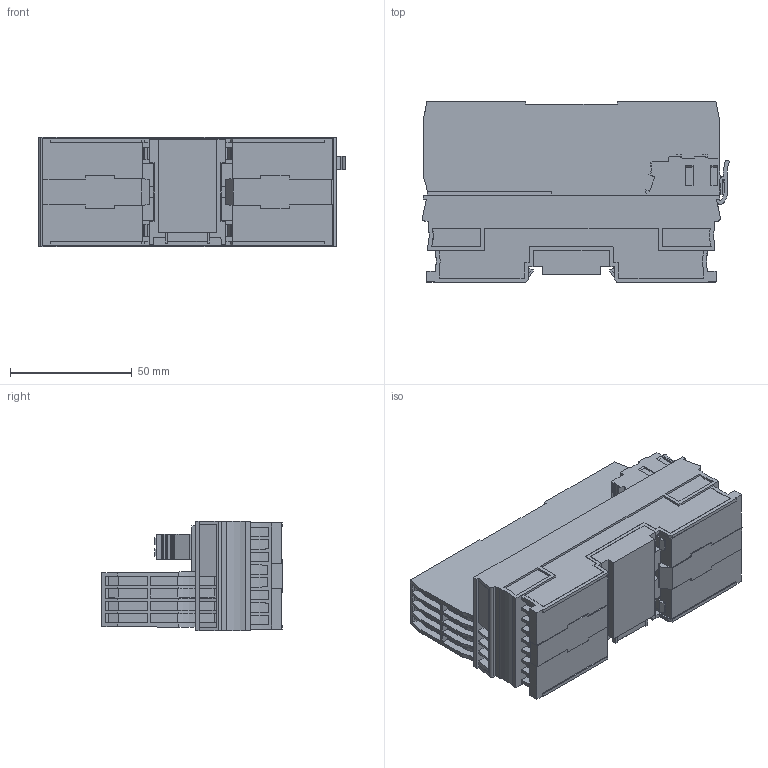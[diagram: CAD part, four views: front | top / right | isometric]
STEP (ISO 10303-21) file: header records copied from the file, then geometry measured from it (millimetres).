
FILE_DESCRIPTION((''),'2;1');
FILE_NAME('CU_REM-11180','2017-05-11T',('dkendric'),(''),'CREO PARAMETRIC BY PTC INC, 2015380','CREO PARAMETRIC BY PTC INC, 2015380','');
FILE_SCHEMA(('CONFIG_CONTROL_DESIGN'));
Length unit declared in the file: inch
Products named in the file (1): CU_REM-11180
Bounding box: 126.17 x 74.19 x 45 mm (x, y, z)
Volume: 274408.8 mm3; surface area: 44577.7 mm2
Topology: 1 solids, 1 shells, 1288 faces, 3659 edges, 2471 vertices
Faces by surface type: plane 1065, cylinder 136, extrusion 79, cone 8
Entity records: 42063 total; most frequent: CARTESIAN_POINT 8895, ORIENTED_EDGE 7318, DIRECTION 6022, EDGE_CURVE 3659, VECTOR 3098, LINE 3019, VERTEX_POINT 2471, AXIS2_PLACEMENT_3D 1462
